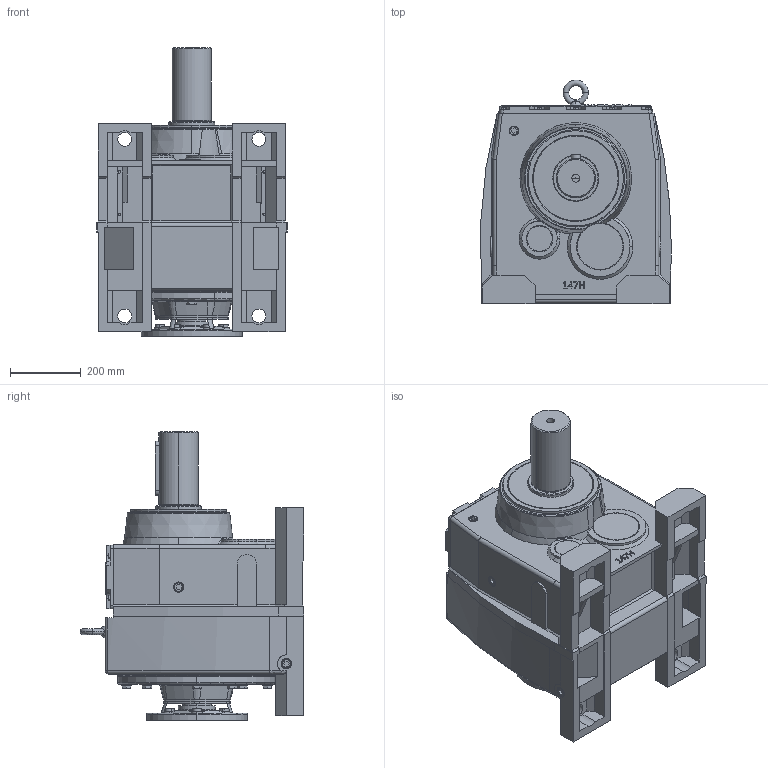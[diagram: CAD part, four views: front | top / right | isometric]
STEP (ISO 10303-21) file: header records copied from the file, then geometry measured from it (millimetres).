
FILE_DESCRIPTION (( 'STEP AP203' ), '1' );
FILE_NAME ('WINL147-284-6TC.STEP', '2013-09-26T10:30:25', ( 'User' ), ( 'Chenta' ), 'SwSTEP 2.0', 'SolidWorks 2011', '' );
FILE_SCHEMA (( 'CONFIG_CONTROL_DESIGN' ));
Length unit declared in the file: millimetre
Products named in the file (1): WINL147-284-6TC
Bounding box: 540.11 x 634 x 818 mm (x, y, z)
Surface area: 2293675.1 mm2 (no closed solid volume)
Topology: 0 solids, 56 shells, 1009 faces, 3007 edges, 2040 vertices
Faces by surface type: plane 586, cylinder 192, cone 169, bspline 34, torus 26, sphere 2
Entity records: 37700 total; most frequent: CARTESIAN_POINT 11152, DIRECTION 5302, ORIENTED_EDGE 5253, EDGE_CURVE 3003, VERTEX_POINT 2040, LINE 1824, VECTOR 1824, AXIS2_PLACEMENT_3D 1739
